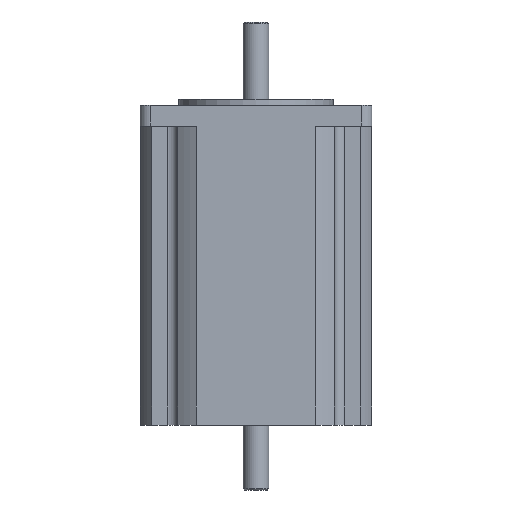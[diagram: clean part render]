
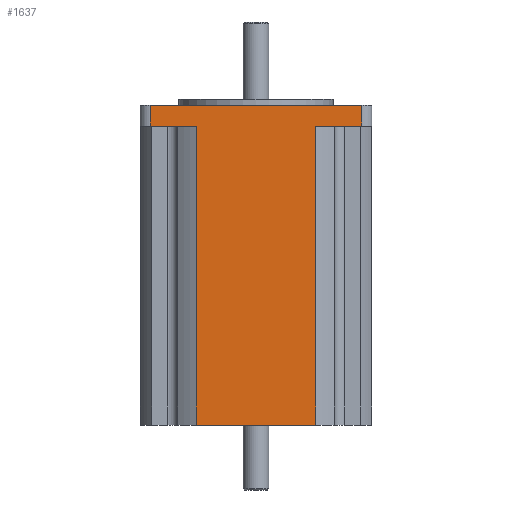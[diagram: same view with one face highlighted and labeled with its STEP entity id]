
A CAD part, front view. The second image highlights one B-rep face of the part: STEP entity #1637.
In plain terms, the highlighted planar face has unit normal (0, -1, 0).
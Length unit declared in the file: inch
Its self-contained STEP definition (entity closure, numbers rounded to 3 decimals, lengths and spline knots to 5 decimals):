
#562=CARTESIAN_POINT('',(0.57845,-1.125,0.0));
#563=VERTEX_POINT('',#562);
#564=CARTESIAN_POINT('',(0.57845,-1.125,2.9));
#565=VERTEX_POINT('',#564);
#566=CARTESIAN_POINT('',(0.57845,-1.125,0.0));
#567=DIRECTION('',(0.0,0.0,1.0));
#568=VECTOR('',#567,2.9);
#569=LINE('',#566,#568);
#570=EDGE_CURVE('',#563,#565,#569,.T.);
#730=CARTESIAN_POINT('',(-0.57845,-1.125,2.9));
#731=VERTEX_POINT('',#730);
#732=CARTESIAN_POINT('',(-0.57845,-1.125,0.0));
#733=VERTEX_POINT('',#732);
#734=CARTESIAN_POINT('',(-0.57845,-1.125,2.9));
#735=DIRECTION('',(0.0,0.0,-1.0));
#736=VECTOR('',#735,2.9);
#737=LINE('',#734,#736);
#738=EDGE_CURVE('',#731,#733,#737,.T.);
#803=CARTESIAN_POINT('',(-1.025,-1.125,2.9));
#804=VERTEX_POINT('',#803);
#805=CARTESIAN_POINT('',(-1.025,-1.125,2.9));
#806=DIRECTION('',(1.0,0.0,0.0));
#807=VECTOR('',#806,0.44655);
#808=LINE('',#805,#807);
#809=EDGE_CURVE('',#804,#731,#808,.T.);
#1082=CARTESIAN_POINT('',(-0.57845,-1.125,0.0));
#1083=DIRECTION('',(1.0,0.0,0.0));
#1084=VECTOR('',#1083,1.15689);
#1085=LINE('',#1082,#1084);
#1086=EDGE_CURVE('',#733,#563,#1085,.T.);
#1330=CARTESIAN_POINT('',(1.025,-1.125,2.9));
#1331=VERTEX_POINT('',#1330);
#1339=CARTESIAN_POINT('',(0.57845,-1.125,2.9));
#1340=DIRECTION('',(1.0,0.0,0.0));
#1341=VECTOR('',#1340,0.44655);
#1342=LINE('',#1339,#1341);
#1343=EDGE_CURVE('',#565,#1331,#1342,.T.);
#1592=CARTESIAN_POINT('',(1.025,-1.125,3.1));
#1593=VERTEX_POINT('',#1592);
#1601=CARTESIAN_POINT('',(1.025,-1.125,2.9));
#1602=DIRECTION('',(0.0,0.0,1.0));
#1603=VECTOR('',#1602,0.2);
#1604=LINE('',#1601,#1603);
#1605=EDGE_CURVE('',#1331,#1593,#1604,.T.);
#1610=CARTESIAN_POINT('',(1.025,-1.125,0.0));
#1611=DIRECTION('',(0.0,-1.0,0.0));
#1612=DIRECTION('',(0.0,0.0,-1.0));
#1613=AXIS2_PLACEMENT_3D('',#1610,#1611,#1612);
#1614=PLANE('',#1613);
#1615=ORIENTED_EDGE('',*,*,#738,.T.);
#1616=ORIENTED_EDGE('',*,*,#1086,.T.);
#1617=ORIENTED_EDGE('',*,*,#570,.T.);
#1618=ORIENTED_EDGE('',*,*,#1343,.T.);
#1619=ORIENTED_EDGE('',*,*,#1605,.T.);
#1620=CARTESIAN_POINT('',(-1.025,-1.125,3.1));
#1621=VERTEX_POINT('',#1620);
#1622=CARTESIAN_POINT('',(1.025,-1.125,3.1));
#1623=DIRECTION('',(-1.0,0.0,0.0));
#1624=VECTOR('',#1623,2.05);
#1625=LINE('',#1622,#1624);
#1626=EDGE_CURVE('',#1593,#1621,#1625,.T.);
#1627=ORIENTED_EDGE('',*,*,#1626,.T.);
#1628=CARTESIAN_POINT('',(-1.025,-1.125,2.9));
#1629=DIRECTION('',(0.0,0.0,1.0));
#1630=VECTOR('',#1629,0.2);
#1631=LINE('',#1628,#1630);
#1632=EDGE_CURVE('',#804,#1621,#1631,.T.);
#1633=ORIENTED_EDGE('',*,*,#1632,.F.);
#1634=ORIENTED_EDGE('',*,*,#809,.T.);
#1635=EDGE_LOOP('',(#1615,#1616,#1617,#1618,#1619,#1627,#1633,#1634));
#1636=FACE_OUTER_BOUND('',#1635,.T.);
#1637=ADVANCED_FACE('',(#1636),#1614,.T.);
